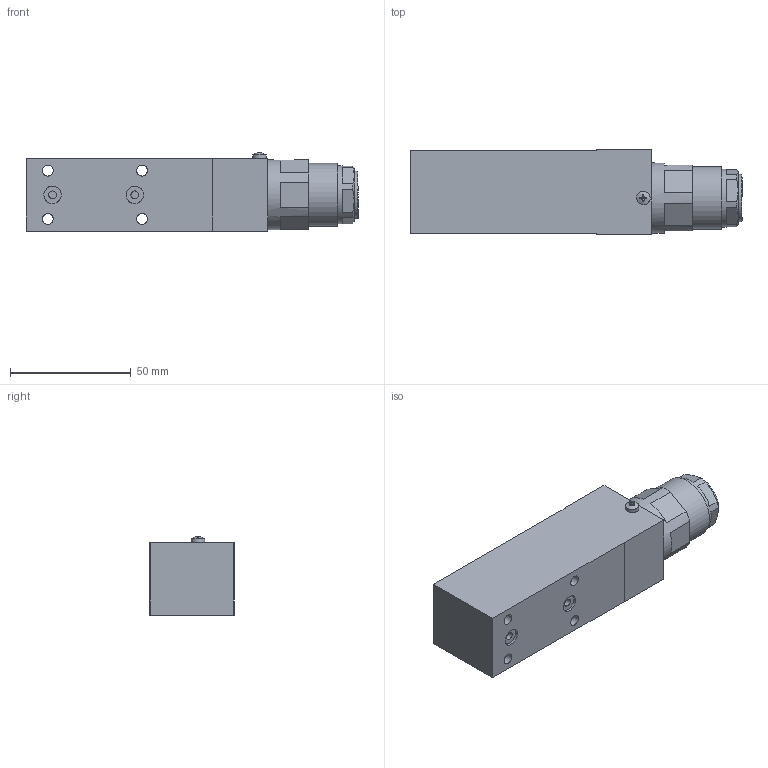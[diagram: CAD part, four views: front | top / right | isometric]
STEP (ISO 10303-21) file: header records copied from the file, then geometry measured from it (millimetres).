
FILE_DESCRIPTION((''),'2;1');
FILE_NAME('U:\Users\a.heinl\DG025.stp','2013-05-14T16:26:19',('User'), ('SDRC'),'I-DEAS Master Series 9','UNIX','Yes');
FILE_SCHEMA(('AUTOMOTIVE_DESIGN { 1 0 10303 214 1 1 1 1 }'));
Length unit declared in the file: millimetre
Products named in the file (1): 11291600(263685)
Bounding box: 137.3 x 35 x 32.35 mm (x, y, z)
Volume: 116644.1 mm3; surface area: 22281.5 mm2
Topology: 1 solids, 2 shells, 134 faces, 312 edges, 205 vertices
Faces by surface type: bspline 134
Entity records: 4354 total; most frequent: CARTESIAN_POINT 2500, ORIENTED_EDGE 610, EDGE_CURVE 305, VERTEX_POINT 205, EDGE_LOOP 172, FACE_OUTER_BOUND 134, ADVANCED_FACE 134, B_SPLINE_CURVE_WITH_KNOTS 87
